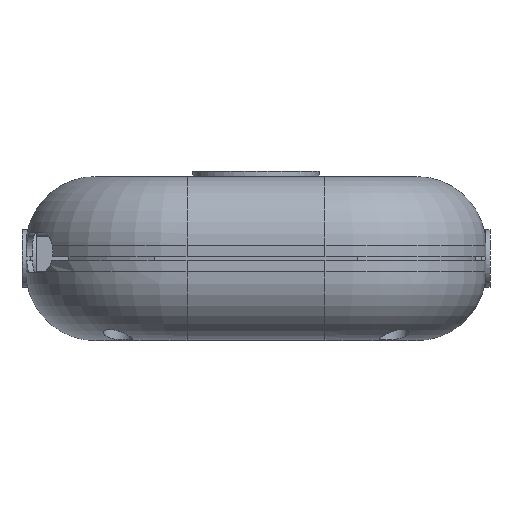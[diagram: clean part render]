
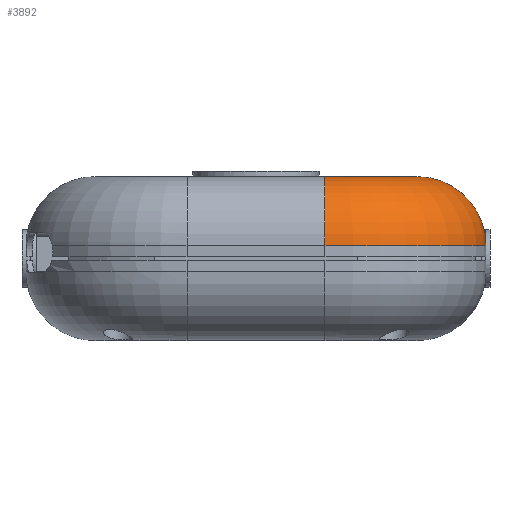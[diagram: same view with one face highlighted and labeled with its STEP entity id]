
A CAD part, front view. The second image highlights one B-rep face of the part: STEP entity #3892.
In plain terms, the highlighted toroidal (fillet/blend) face has major radius 16 mm and minor radius 12 mm.
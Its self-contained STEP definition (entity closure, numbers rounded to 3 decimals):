
#438 = PLANE('',#439);
#439 = AXIS2_PLACEMENT_3D('',#440,#441,#442);
#440 = CARTESIAN_POINT('',(-40.,-64.,28.5));
#441 = DIRECTION('',(0.,0.,1.));
#442 = DIRECTION('',(1.,0.,0.));
#976 = CYLINDRICAL_SURFACE('',#977,12.);
#977 = AXIS2_PLACEMENT_3D('',#978,#979,#980);
#978 = CARTESIAN_POINT('',(12.,-52.,16.5));
#979 = DIRECTION('',(-1.,-0.,-0.));
#980 = DIRECTION('',(-0.,0.,1.));
#1406 = VERTEX_POINT('',#1407);
#1407 = CARTESIAN_POINT('',(12.,-52.,28.5));
#1428 = EDGE_CURVE('',#1429,#1406,#1431,.T.);
#1429 = VERTEX_POINT('',#1430);
#1430 = CARTESIAN_POINT('',(28.,-36.,28.5));
#1431 = SURFACE_CURVE('',#1432,(#1437,#1448),.PCURVE_S1.);
#1432 = CIRCLE('',#1433,16.);
#1433 = AXIS2_PLACEMENT_3D('',#1434,#1435,#1436);
#1434 = CARTESIAN_POINT('',(12.,-36.,28.5));
#1435 = DIRECTION('',(0.,0.,-1.));
#1436 = DIRECTION('',(1.,0.,0.));
#1437 = PCURVE('',#438,#1438);
#1438 = DEFINITIONAL_REPRESENTATION('',(#1439),#1447);
#1439 = ( BOUNDED_CURVE() B_SPLINE_CURVE(2,(#1440,#1441,#1442,#1443,
#1444,#1445,#1446),.UNSPECIFIED.,.T.,.F.) B_SPLINE_CURVE_WITH_KNOTS((1,2
    ,2,2,2,1),(-2.094,0.,2.094,4.189,
6.283,8.378),.UNSPECIFIED.) CURVE() 
GEOMETRIC_REPRESENTATION_ITEM() RATIONAL_B_SPLINE_CURVE((1.,0.5,1.,0.5,
1.,0.5,1.)) REPRESENTATION_ITEM('') );
#1440 = CARTESIAN_POINT('',(68.,28.));
#1441 = CARTESIAN_POINT('',(68.,0.287));
#1442 = CARTESIAN_POINT('',(44.,14.144));
#1443 = CARTESIAN_POINT('',(20.,28.));
#1444 = CARTESIAN_POINT('',(44.,41.856));
#1445 = CARTESIAN_POINT('',(68.,55.713));
#1446 = CARTESIAN_POINT('',(68.,28.));
#1447 = ( GEOMETRIC_REPRESENTATION_CONTEXT(2) 
PARAMETRIC_REPRESENTATION_CONTEXT() REPRESENTATION_CONTEXT('2D SPACE',''
  ) );
#1448 = PCURVE('',#1449,#1454);
#1449 = TOROIDAL_SURFACE('',#1450,16.,12.);
#1450 = AXIS2_PLACEMENT_3D('',#1451,#1452,#1453);
#1451 = CARTESIAN_POINT('',(12.,-36.,16.5));
#1452 = DIRECTION('',(-0.,-0.,-1.));
#1453 = DIRECTION('',(1.,0.,0.));
#1454 = DEFINITIONAL_REPRESENTATION('',(#1455),#1459);
#1455 = LINE('',#1456,#1457);
#1456 = CARTESIAN_POINT('',(0.,4.712));
#1457 = VECTOR('',#1458,1.);
#1458 = DIRECTION('',(1.,0.));
#1459 = ( GEOMETRIC_REPRESENTATION_CONTEXT(2) 
PARAMETRIC_REPRESENTATION_CONTEXT() REPRESENTATION_CONTEXT('2D SPACE',''
  ) );
#1477 = CYLINDRICAL_SURFACE('',#1478,12.);
#1478 = AXIS2_PLACEMENT_3D('',#1479,#1480,#1481);
#1479 = CARTESIAN_POINT('',(28.,36.,16.5));
#1480 = DIRECTION('',(-0.,-1.,-0.));
#1481 = DIRECTION('',(0.,0.,1.));
#2403 = EDGE_CURVE('',#1406,#2404,#2406,.T.);
#2404 = VERTEX_POINT('',#2405);
#2405 = CARTESIAN_POINT('',(12.,-64.,16.5));
#2406 = SURFACE_CURVE('',#2407,(#2412,#2418),.PCURVE_S1.);
#2407 = CIRCLE('',#2408,12.);
#2408 = AXIS2_PLACEMENT_3D('',#2409,#2410,#2411);
#2409 = CARTESIAN_POINT('',(12.,-52.,16.5));
#2410 = DIRECTION('',(1.,0.,0.));
#2411 = DIRECTION('',(0.,-1.,0.));
#2412 = PCURVE('',#976,#2413);
#2413 = DEFINITIONAL_REPRESENTATION('',(#2414),#2417);
#2414 = B_SPLINE_CURVE_WITH_KNOTS('',1,(#2415,#2416),.UNSPECIFIED.,.F.,
  .F.,(2,2),(4.712,6.283),.PIECEWISE_BEZIER_KNOTS.);
#2415 = CARTESIAN_POINT('',(0.,0.));
#2416 = CARTESIAN_POINT('',(-1.571,0.));
#2417 = ( GEOMETRIC_REPRESENTATION_CONTEXT(2) 
PARAMETRIC_REPRESENTATION_CONTEXT() REPRESENTATION_CONTEXT('2D SPACE',''
  ) );
#2418 = PCURVE('',#1449,#2419);
#2419 = DEFINITIONAL_REPRESENTATION('',(#2420),#2423);
#2420 = B_SPLINE_CURVE_WITH_KNOTS('',1,(#2421,#2422),.UNSPECIFIED.,.F.,
  .F.,(2,2),(4.712,6.283),.PIECEWISE_BEZIER_KNOTS.);
#2421 = CARTESIAN_POINT('',(1.571,4.712));
#2422 = CARTESIAN_POINT('',(1.571,6.283));
#2423 = ( GEOMETRIC_REPRESENTATION_CONTEXT(2) 
PARAMETRIC_REPRESENTATION_CONTEXT() REPRESENTATION_CONTEXT('2D SPACE',''
  ) );
#3846 = VERTEX_POINT('',#3847);
#3847 = CARTESIAN_POINT('',(40.,-36.,16.5));
#3873 = EDGE_CURVE('',#1429,#3846,#3874,.T.);
#3874 = SURFACE_CURVE('',#3875,(#3880,#3886),.PCURVE_S1.);
#3875 = CIRCLE('',#3876,12.);
#3876 = AXIS2_PLACEMENT_3D('',#3877,#3878,#3879);
#3877 = CARTESIAN_POINT('',(28.,-36.,16.5));
#3878 = DIRECTION('',(0.,1.,0.));
#3879 = DIRECTION('',(0.,-0.,1.));
#3880 = PCURVE('',#1477,#3881);
#3881 = DEFINITIONAL_REPRESENTATION('',(#3882),#3885);
#3882 = B_SPLINE_CURVE_WITH_KNOTS('',1,(#3883,#3884),.UNSPECIFIED.,.F.,
  .F.,(2,2),(0.,1.571),.PIECEWISE_BEZIER_KNOTS.);
#3883 = CARTESIAN_POINT('',(0.,72.));
#3884 = CARTESIAN_POINT('',(-1.571,72.));
#3885 = ( GEOMETRIC_REPRESENTATION_CONTEXT(2) 
PARAMETRIC_REPRESENTATION_CONTEXT() REPRESENTATION_CONTEXT('2D SPACE',''
  ) );
#3886 = PCURVE('',#1449,#3887);
#3887 = DEFINITIONAL_REPRESENTATION('',(#3888),#3891);
#3888 = B_SPLINE_CURVE_WITH_KNOTS('',1,(#3889,#3890),.UNSPECIFIED.,.F.,
  .F.,(2,2),(0.,1.571),.PIECEWISE_BEZIER_KNOTS.);
#3889 = CARTESIAN_POINT('',(0.,4.712));
#3890 = CARTESIAN_POINT('',(0.,6.283));
#3891 = ( GEOMETRIC_REPRESENTATION_CONTEXT(2) 
PARAMETRIC_REPRESENTATION_CONTEXT() REPRESENTATION_CONTEXT('2D SPACE',''
  ) );
#3892 = ADVANCED_FACE('',(#3893),#1449,.T.);
#3893 = FACE_BOUND('',#3894,.T.);
#3894 = EDGE_LOOP('',(#3895,#3896,#3897,#3898));
#3895 = ORIENTED_EDGE('',*,*,#3873,.F.);
#3896 = ORIENTED_EDGE('',*,*,#1428,.T.);
#3897 = ORIENTED_EDGE('',*,*,#2403,.T.);
#3898 = ORIENTED_EDGE('',*,*,#3899,.F.);
#3899 = EDGE_CURVE('',#3846,#2404,#3900,.T.);
#3900 = SURFACE_CURVE('',#3901,(#3906,#3913),.PCURVE_S1.);
#3901 = CIRCLE('',#3902,28.);
#3902 = AXIS2_PLACEMENT_3D('',#3903,#3904,#3905);
#3903 = CARTESIAN_POINT('',(12.,-36.,16.5));
#3904 = DIRECTION('',(0.,0.,-1.));
#3905 = DIRECTION('',(1.,0.,0.));
#3906 = PCURVE('',#1449,#3907);
#3907 = DEFINITIONAL_REPRESENTATION('',(#3908),#3912);
#3908 = LINE('',#3909,#3910);
#3909 = CARTESIAN_POINT('',(0.,6.283));
#3910 = VECTOR('',#3911,1.);
#3911 = DIRECTION('',(1.,0.));
#3912 = ( GEOMETRIC_REPRESENTATION_CONTEXT(2) 
PARAMETRIC_REPRESENTATION_CONTEXT() REPRESENTATION_CONTEXT('2D SPACE',''
  ) );
#3913 = PCURVE('',#3914,#3919);
#3914 = CYLINDRICAL_SURFACE('',#3915,28.);
#3915 = AXIS2_PLACEMENT_3D('',#3916,#3917,#3918);
#3916 = CARTESIAN_POINT('',(12.,-36.,0.));
#3917 = DIRECTION('',(0.,0.,1.));
#3918 = DIRECTION('',(1.,0.,-0.));
#3919 = DEFINITIONAL_REPRESENTATION('',(#3920),#3924);
#3920 = LINE('',#3921,#3922);
#3921 = CARTESIAN_POINT('',(-0.,16.5));
#3922 = VECTOR('',#3923,1.);
#3923 = DIRECTION('',(-1.,0.));
#3924 = ( GEOMETRIC_REPRESENTATION_CONTEXT(2) 
PARAMETRIC_REPRESENTATION_CONTEXT() REPRESENTATION_CONTEXT('2D SPACE',''
  ) );
